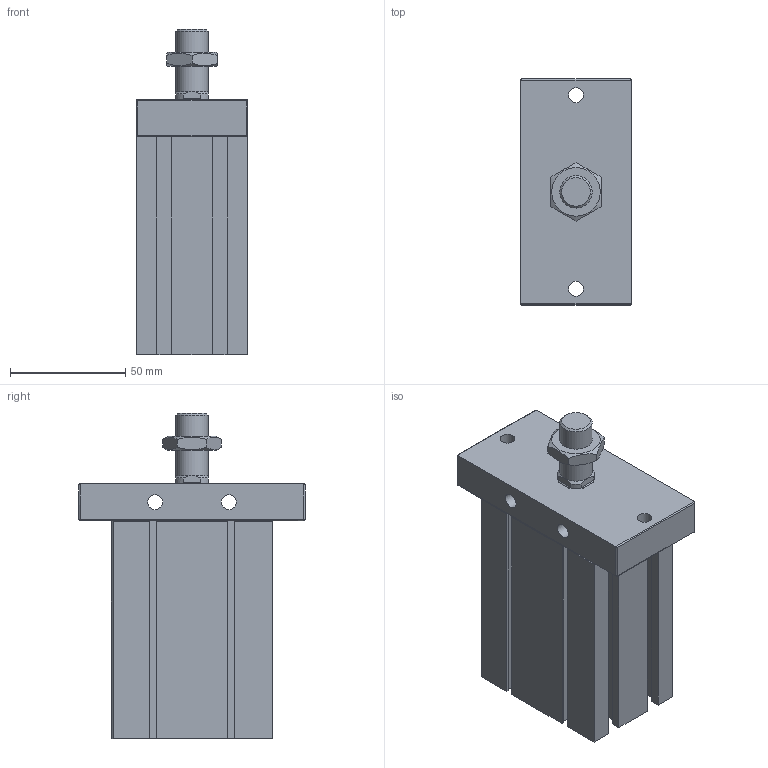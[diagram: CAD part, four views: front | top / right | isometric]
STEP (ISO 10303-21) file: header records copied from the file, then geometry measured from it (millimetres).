
FILE_DESCRIPTION((''),'2;1');
FILE_NAME('J:\3D電子目錄\氣缸\ND\ND\ND40-FBS\ND40x50-FBS.stp','2008-03-13T10:23:06',('66-2f-008'),(''),'Autodesk Inventor 11','Autodesk Inventor 11','');
FILE_SCHEMA(('AUTOMOTIVE_DESIGN { 1 0 10303 214 1 1 1 1 }'));
Length unit declared in the file: millimetre
Products named in the file (1): ND40-FBS
Bounding box: 48 x 98 x 141 mm (x, y, z)
Volume: 359257.9 mm3; surface area: 55292.5 mm2
Topology: 2 solids, 2 shells, 153 faces, 391 edges, 251 vertices
Faces by surface type: plane 99, cylinder 23, cone 14, bspline 14, sphere 2, torus 1
Full cylindrical faces by diameter (mm): 2.2 x2, 6.5 x2, 14 x2, 29 x1, 42 x1, 44.5 x1
Entity records: 4520 total; most frequent: CARTESIAN_POINT 976, ORIENTED_EDGE 708, DIRECTION 698, EDGE_CURVE 354, VECTOR 250, LINE 250, VERTEX_POINT 246, AXIS2_PLACEMENT_3D 224
